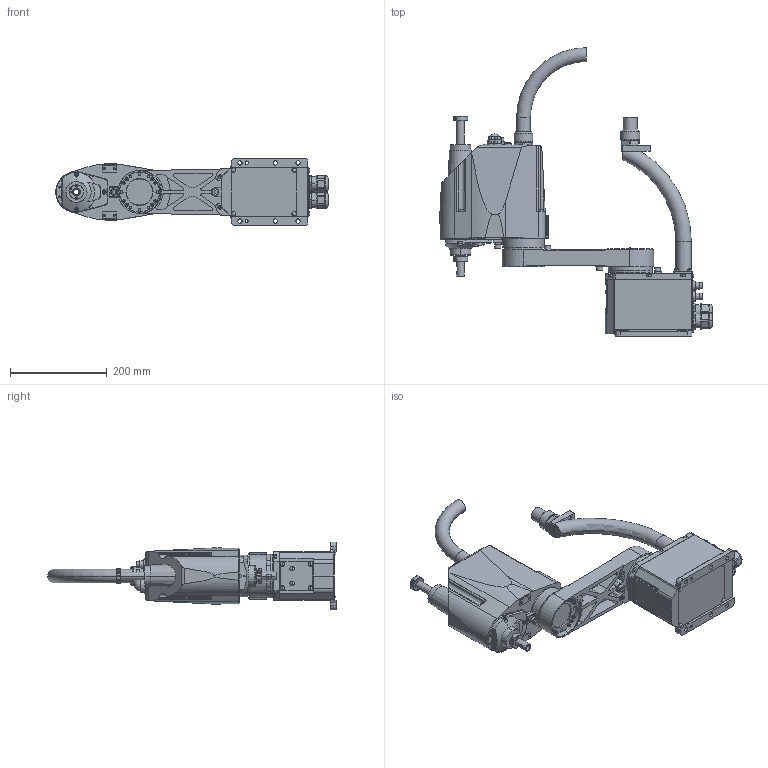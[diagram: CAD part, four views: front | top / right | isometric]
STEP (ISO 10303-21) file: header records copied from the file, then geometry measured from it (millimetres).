
FILE_DESCRIPTION( ( '' ), '1' );
FILE_NAME( '//expscmdclustefs.cadenas.external/client_exchange/iodir/jobs/output/wkb51512705_no0/STEP/G3_351S_2_03.stp', '2012-11-22T15:40:33', ( '' ), ( '' ), ' ', ' ', ' ' );
FILE_SCHEMA( ( 'CONFIG_CONTROL_DESIGN' ) );
Length unit declared in the file: millimetre
Products named in the file (4): 1; 2; 3; 4
Bounding box: 561.5 x 595 x 140 mm (x, y, z)
Volume: 7633093.6 mm3; surface area: 565885.6 mm2
Topology: 4 solids, 4 shells, 1899 faces, 4725 edges, 3034 vertices
Faces by surface type: plane 878, cylinder 703, cone 195, torus 85, sphere 38
Entity records: 58612 total; most frequent: CARTESIAN_POINT 11749, DIRECTION 10260, ORIENTED_EDGE 9378, EDGE_CURVE 4689, AXIS2_PLACEMENT_3D 3832, VERTEX_POINT 3034, LINE 2596, VECTOR 2596
